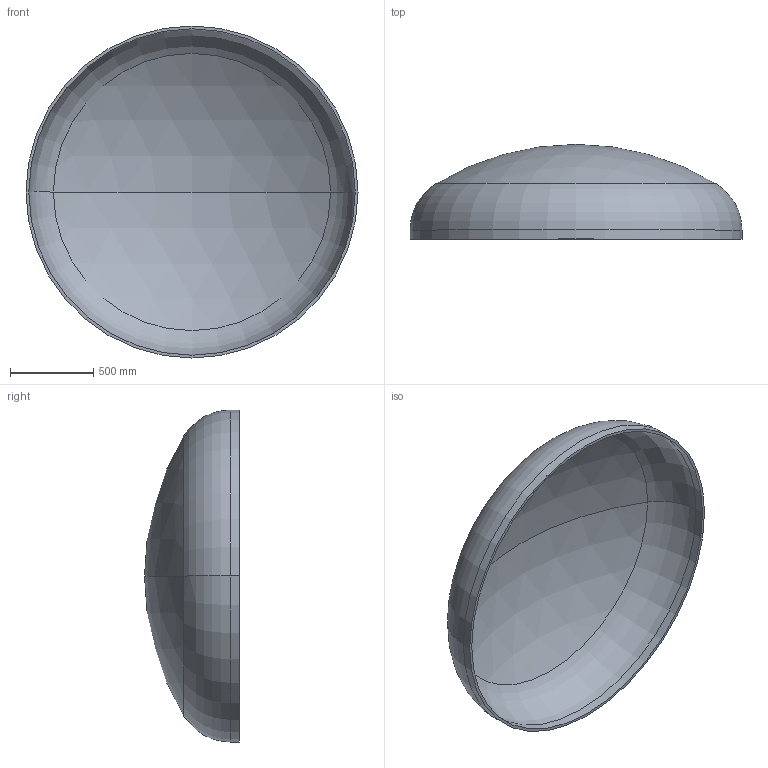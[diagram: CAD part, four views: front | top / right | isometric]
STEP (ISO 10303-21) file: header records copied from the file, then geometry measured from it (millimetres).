
FILE_DESCRIPTION (( 'STEP AP203' ), '1' );
FILE_NAME ('DIN 28013 Korbbogenform_-_Boden DIN 28013 - 2000 x 55 - I - s=17.step', '2016-07-01T13:39:41', ( '' ), ( '' ), 'SwSTEP 2.0', 'SolidWorks 2013', '' );
FILE_SCHEMA (( 'CONFIG_CONTROL_DESIGN' ));
Length unit declared in the file: millimetre
Products named in the file (1): DIN 28013 Korbbogenform_-_Boden DIN 28013 - 2000 x 55 - I - s=17
Bounding box: 2000 x 571.47 x 2000 mm (x, y, z)
Volume: 79059347.9 mm3; surface area: 9407607.8 mm2
Topology: 1 solids, 1 shells, 13 faces, 24 edges, 14 vertices
Faces by surface type: torus 4, cylinder 4, sphere 4, plane 1
Entity records: 407 total; most frequent: DIRECTION 72, CARTESIAN_POINT 52, ORIENTED_EDGE 48, AXIS2_PLACEMENT_3D 34, EDGE_CURVE 24, CIRCLE 20, EDGE_LOOP 14, VERTEX_POINT 14
